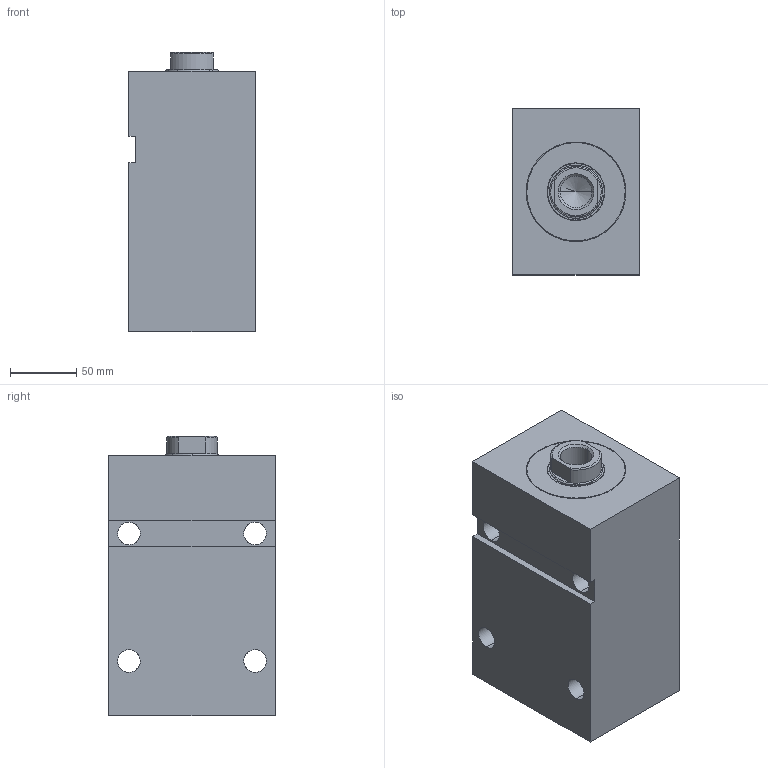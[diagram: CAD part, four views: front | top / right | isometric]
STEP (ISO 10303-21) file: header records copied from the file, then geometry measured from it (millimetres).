
FILE_DESCRIPTION (( 'STEP AP214' ), '1' );
FILE_NAME ('KBZ_03_100_63_40_100.STEP', '2020-08-19T11:50:02', ( '' ), ( '' ), 'SwSTEP 2.0', 'SolidWorks 2018', '' );
FILE_SCHEMA (( 'AUTOMOTIVE_DESIGN' ));
Length unit declared in the file: millimetre
Products named in the file (6): KBZ_03_100_63_40_100; HI_SBZ100.63-C.stp; SBZ100-63-40-100.stp; HI_SBZ10063  FORM=03 STROKE=100-R.stp; HI_SBZ10063  FORM=03 STROKE=100 H2=59 -C.stp; HI_SBZ100.63-S.stp
Assembly tree (5 placements, depth 3):
  KBZ_03_100_63_40_100
    SBZ100-63-40-100.stp
      HI_SBZ10063  FORM=03 STROKE=100 H2=59 -C.stp
      HI_SBZ10063  FORM=03 STROKE=100-R.stp
      HI_SBZ100.63-C.stp
      HI_SBZ100.63-S.stp
Bounding box: 95 x 125 x 210 mm (x, y, z)
Volume: 2025206.7 mm3; surface area: 231933.5 mm2
Topology: 4 solids, 4 shells, 89 faces, 198 edges, 127 vertices
Faces by surface type: cylinder 46, plane 31, cone 8, torus 4
Entity records: 5521 total; most frequent: CARTESIAN_POINT 3526, ORIENTED_EDGE 392, DIRECTION 284, EDGE_CURVE 196, VERTEX_POINT 127, EDGE_LOOP 117, B_SPLINE_CURVE_WITH_KNOTS 114, AXIS2_PLACEMENT_3D 104
